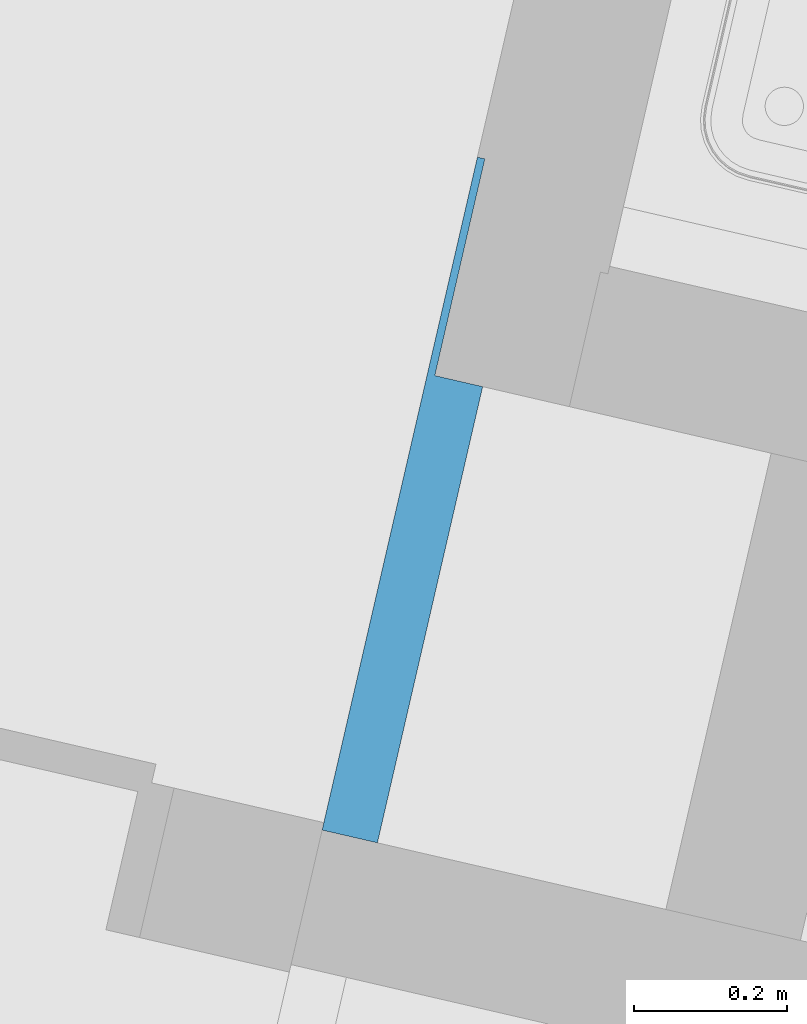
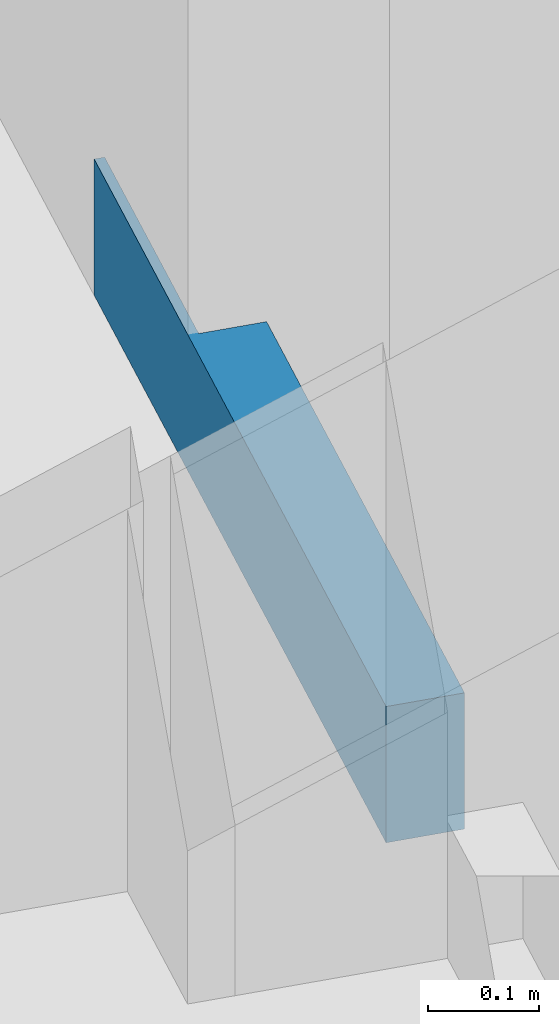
# One storey, part 54 of 91: 1 wall.
"""IFC2X3 building model written with IfcOpenShell, lengths in metres."""

from ifc_helpers import new_model, entity, si_unit, converted_unit, derived_unit, money_unit, direction, frame, origin_with_axes, place, context, subcontext, project, spatial, faceted_brep, material, type_object, element, save


model = new_model("IFC2X3")

# Units and contexts
model_context = context("Model", 3, precision=1e-05, world=origin_with_axes(), true_north=direction((0.0, 1.0)))
body_context = subcontext(model_context, "Body", "Model", "MODEL_VIEW")
ifc_project = project(units=[si_unit("LENGTHUNIT", "METRE"), si_unit("AREAUNIT", "SQUARE_METRE"), si_unit("VOLUMEUNIT", "CUBIC_METRE"), converted_unit("PLANEANGLEUNIT", "DEGREE", entity("IfcPlaneAngleMeasure", 0.0174532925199), si_unit("PLANEANGLEUNIT", "RADIAN"), dimensions=[0, 0, 0, 0, 0, 0, 0]), si_unit("SOLIDANGLEUNIT", "STERADIAN"), money_unit("EUR"), converted_unit("TIMEUNIT", "Year", entity("IfcTimeMeasure", 31556926.0), si_unit("TIMEUNIT", "SECOND"), dimensions=[0, 0, 1, 0, 0, 0, 0]), si_unit("MASSUNIT", "GRAM", prefix="KILO"), si_unit("THERMODYNAMICTEMPERATUREUNIT", "DEGREE_CELSIUS"), si_unit("LUMINOUSINTENSITYUNIT", "LUMEN"), si_unit("ENERGYUNIT", "JOULE", prefix="MEGA"), derived_unit("THERMALCONDUCTANCEUNIT", [(si_unit("POWERUNIT", "WATT"), 1), (si_unit("LENGTHUNIT", "METRE"), -1), (si_unit("THERMODYNAMICTEMPERATUREUNIT", "KELVIN"), -1)]), derived_unit("SPECIFICHEATCAPACITYUNIT", [(si_unit("ENERGYUNIT", "JOULE"), 1), (si_unit("MASSUNIT", "GRAM", prefix="KILO"), -1), (si_unit("THERMODYNAMICTEMPERATUREUNIT", "KELVIN"), -1)]), derived_unit("MASSDENSITYUNIT", [(si_unit("MASSUNIT", "GRAM", prefix="KILO"), 1), (si_unit("VOLUMEUNIT", "CUBIC_METRE"), -1)])], contexts=[model_context])

# Site, building, storey
site_placement = place(None, origin_with_axes())
site = spatial("IfcSite", under=ifc_project, at=site_placement, Name="Site", CompositionType="ELEMENT")
building_placement = place(site_placement, origin_with_axes())
building = spatial("IfcBuilding", under=site, at=building_placement, Name="Bâtiment", CompositionType="ELEMENT")
storey_placement = place(building_placement, frame((0.0, 0.0, 5.44), z_axis=(0.0, 0.0, 1.0), x_axis=(1.0, 0.0, 0.0)))
storey = spatial("IfcBuildingStorey", under=building, at=storey_placement, Name="R+2", CompositionType="ELEMENT", Elevation=5.44)

# Wall
ifc_material = material(Name="Cloison - Carreaux de plâtre")
wall_type = type_object("IfcWallType", Name="Cloison - Carreaux de plâtre 74", PredefinedType="USERDEFINED")
wall_placement = place(storey_placement, frame((-8.2935087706, 4.82801168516, 0.0), z_axis=(0.0, 0.0, 1.0), x_axis=(-0.224876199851, -0.974387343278, 0.0)))
element("IfcWall", 1, at=wall_placement, inside=storey, type_object=wall_type, material=ifc_material, Name="Carreaux de plâtre 8cm", ObjectType="PARTITIONING", context=body_context, shape_type="Brep", body=[
    faceted_brep([(0.610475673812, 0.0, 0.15), (0.610475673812, 0.074, 0.15), (0.0, 0.074, 0.15), (0.0, 0.01, 0.15), (-0.29, 0.00999999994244, 0.15), (-0.29, 0.0, 0.15), (0.610475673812, 0.074, 0.0), (0.610475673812, 0.0, 0.0), (0.0, 0.074, 0.0), (0.0, 0.01, 0.0), (-0.29, 0.00999999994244, 0.0), (-0.29, 0.0, 0.0)], [[[0, 1, 2, 3, 4, 5]], [[6, 1, 0, 7]], [[1, 6, 8, 2]], [[8, 9, 3, 2]], [[3, 9, 10, 4]], [[11, 5, 4, 10]], [[7, 0, 5, 11]], [[11, 10, 9, 8, 6, 7]]]),
])

save(model, "model.ifc")
